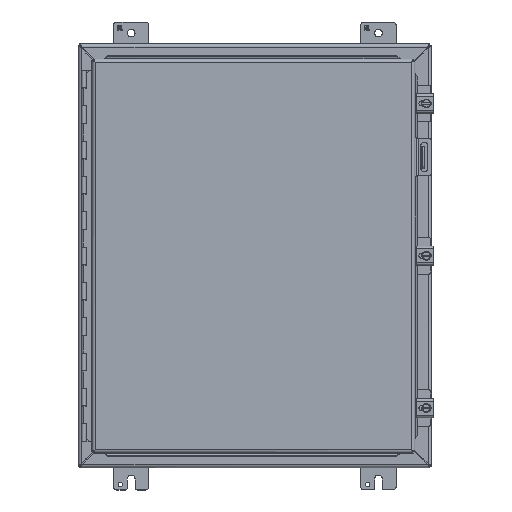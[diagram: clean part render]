
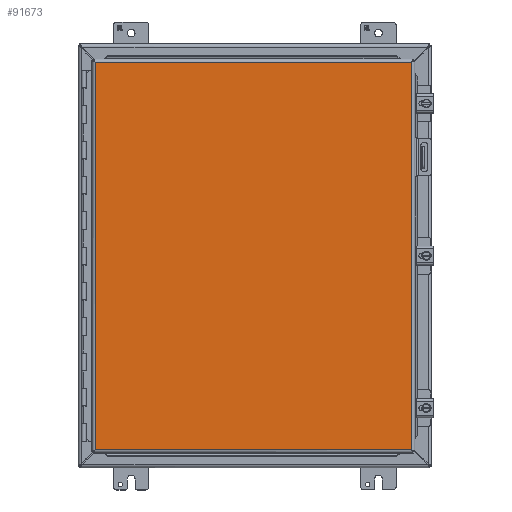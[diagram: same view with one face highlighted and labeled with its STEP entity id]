
A CAD part, top view. The second image highlights one B-rep face of the part: STEP entity #91673.
In plain terms, the highlighted planar face has unit normal (0, 0, 1).
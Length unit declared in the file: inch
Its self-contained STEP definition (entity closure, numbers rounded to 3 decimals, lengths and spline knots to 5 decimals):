
#1056 = CARTESIAN_POINT ( 'NONE',  ( -8.96163, 11.07311, 0.069 ) ) ;
#3449 = FACE_OUTER_BOUND ( 'NONE', #38520, .T. ) ;
#7936 = CARTESIAN_POINT ( 'NONE',  ( -8.96163, 10.97725, 0.069 ) ) ;
#9219 = LINE ( 'NONE', #38670, #33538 ) ;
#13225 = VERTEX_POINT ( 'NONE', #7936 ) ;
#13498 = CARTESIAN_POINT ( 'NONE',  ( 8.96162, 10.97725, 0.069 ) ) ;
#16060 = DIRECTION ( 'NONE',  ( 0., -1., 0. ) ) ;
#16435 = VECTOR ( 'NONE', #82093, 39.37008 ) ;
#23216 = LINE ( 'NONE', #29949, #16435 ) ;
#24382 = AXIS2_PLACEMENT_3D ( 'NONE', #62301, #84994, #63262 ) ;
#29949 = CARTESIAN_POINT ( 'NONE',  ( 8.96162, -11.07311, 0.069 ) ) ;
#30381 = ORIENTED_EDGE ( 'NONE', *, *, #77947, .T. ) ;
#33538 = VECTOR ( 'NONE', #39130, 39.37008 ) ;
#33827 = PLANE ( 'NONE',  #24382 ) ;
#35387 = LINE ( 'NONE', #64818, #50441 ) ;
#37738 = LINE ( 'NONE', #1056, #70725 ) ;
#38520 = EDGE_LOOP ( 'NONE', ( #68662, #68563, #40298, #30381 ) ) ;
#38670 = CARTESIAN_POINT ( 'NONE',  ( -9.05748, -10.97725, 0.069 ) ) ;
#39130 = DIRECTION ( 'NONE',  ( 1., 0., 0. ) ) ;
#40298 = ORIENTED_EDGE ( 'NONE', *, *, #54698, .T. ) ;
#45315 = VERTEX_POINT ( 'NONE', #13498 ) ;
#50441 = VECTOR ( 'NONE', #86549, 39.37008 ) ;
#54698 = EDGE_CURVE ( 'NONE', #77232, #85495, #9219, .T. ) ;
#54753 = CARTESIAN_POINT ( 'NONE',  ( 8.96162, -10.97725, 0.069 ) ) ;
#60414 = EDGE_CURVE ( 'NONE', #13225, #77232, #37738, .T. ) ;
#62301 = CARTESIAN_POINT ( 'NONE',  ( -9.14063, -11.15625, 0.069 ) ) ;
#63262 = DIRECTION ( 'NONE',  ( 1., 0., 0. ) ) ;
#64818 = CARTESIAN_POINT ( 'NONE',  ( 9.05748, 10.97725, 0.069 ) ) ;
#65844 = EDGE_CURVE ( 'NONE', #45315, #13225, #35387, .T. ) ;
#68563 = ORIENTED_EDGE ( 'NONE', *, *, #60414, .T. ) ;
#68662 = ORIENTED_EDGE ( 'NONE', *, *, #65844, .T. ) ;
#70725 = VECTOR ( 'NONE', #16060, 39.37008 ) ;
#75542 = CARTESIAN_POINT ( 'NONE',  ( -8.96163, -10.97725, 0.069 ) ) ;
#77232 = VERTEX_POINT ( 'NONE', #75542 ) ;
#77947 = EDGE_CURVE ( 'NONE', #85495, #45315, #23216, .T. ) ;
#82093 = DIRECTION ( 'NONE',  ( 0., 1., 0. ) ) ;
#84994 = DIRECTION ( 'NONE',  ( 0., 0., 1. ) ) ;
#85495 = VERTEX_POINT ( 'NONE', #54753 ) ;
#86549 = DIRECTION ( 'NONE',  ( -1., 0., 0. ) ) ;
#91673 = ADVANCED_FACE ( 'NONE', ( #3449 ), #33827, .T. ) ;
